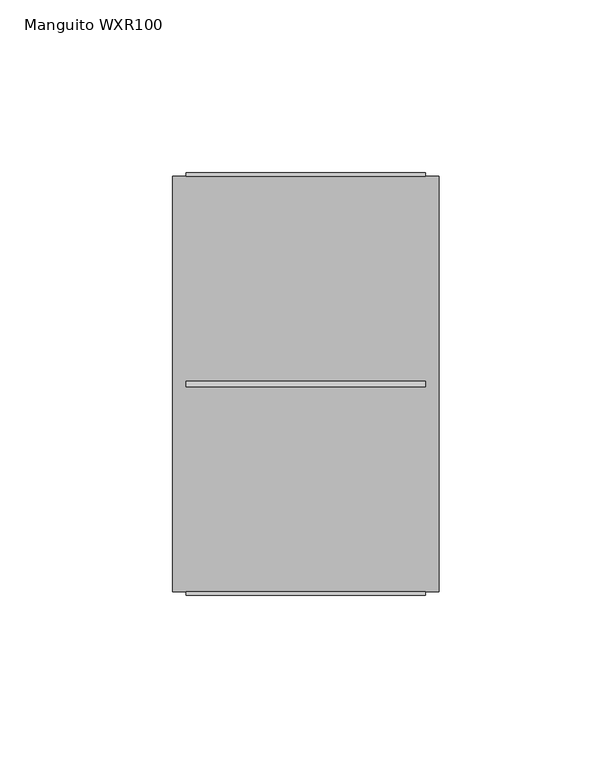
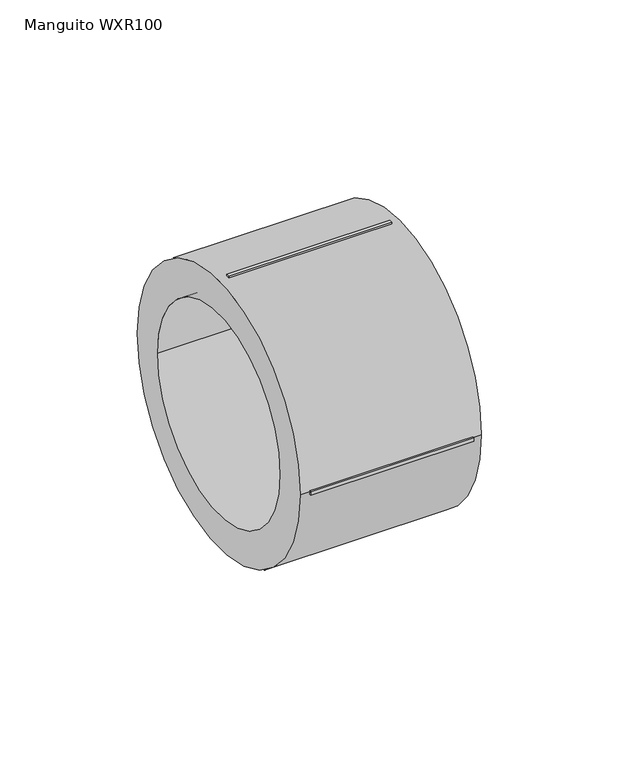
"""IFC4 building model written with IfcOpenShell, lengths in millimetres: pipe fitting geometry, EGB_VASEN_ PPR_Manguito WXR100 : Manguito WXR100."""

from ifc_helpers import new_model, si_unit, point, frame, origin, origin_2d, place, context, project, spatial, polyline, circle_curve, trimmed, segment, composite_curve, outline, extrude, source, transform, mapped, element, save


def manguito_wxr100_6838e299(model_context):
    return source(origin(), model_context, "Body", "SweptSolid", [
        extrude(outline(composite_curve([segment(trimmed(circle_curve(origin_2d(), 60.0), [point((-60.0, 0.0))], [point((60.0, 0.0))], False, "CARTESIAN"), True, "CONTINUOUS"), segment(trimmed(circle_curve(origin_2d(), 60.0), [point((60.0, 0.0))], [point((-60.0, 0.0))], False, "CARTESIAN"), True, "CONTINUOUS")], self_intersect=False), holes=[composite_curve([segment(trimmed(circle_curve(origin_2d(), 45.0), [point((-45.0, 0.0))], [point((45.0, 0.0))], True, "CARTESIAN"), True, "CONTINUOUS"), segment(trimmed(circle_curve(origin_2d(), 45.0), [point((45.0, 0.0))], [point((-45.0, 0.0))], True, "CARTESIAN"), True, "CONTINUOUS")], self_intersect=False)]), frame((-38.5, 0.0, 0.0), z_axis=(1.0, 0.0, 0.0), x_axis=(0.0, 1.0, 0.0)), (0.0, 0.0, 1.0), 77.0),
        extrude(outline(polyline([(34.65, 0.75), (34.65, -0.75), (-34.65, -0.75), (-34.65, 0.75), (34.65, 0.75)])), frame((0.0, 0.0, 59.0), z_axis=(0.0, 0.0, 1.0), x_axis=(1.0, 0.0, 0.0)), (0.0, 0.0, 1.0), 2.0),
        extrude(outline(polyline([(34.65, 0.75), (34.65, -0.75), (-34.65, -0.75), (-34.65, 0.75), (34.65, 0.75)])), frame((0.0, 0.0, -61.0), z_axis=(0.0, 0.0, 1.0), x_axis=(1.0, 0.0, 0.0)), (0.0, 0.0, 1.0), 2.0),
        extrude(outline(polyline([(34.65, 61.0), (34.65, 59.0), (-34.65, 59.0), (-34.65, 61.0), (34.65, 61.0)])), frame((0.0, 0.0, -0.75), z_axis=(0.0, 0.0, 1.0), x_axis=(1.0, 0.0, 0.0)), (0.0, 0.0, 1.0), 1.5),
        extrude(outline(polyline([(34.65, -59.0), (34.65, -61.0), (-34.65, -61.0), (-34.65, -59.0), (34.65, -59.0)])), frame((0.0, 0.0, -0.75), z_axis=(0.0, 0.0, 1.0), x_axis=(1.0, 0.0, 0.0)), (0.0, 0.0, 1.0), 1.5),
    ])


if __name__ == "__main__":
    model = new_model("IFC4")
    model_context = context("Model", 3, world=origin())
    ifc_project = project(units=[si_unit("LENGTHUNIT", "METRE", prefix="MILLI")], contexts=[model_context])
    site = spatial("IfcSite", under=ifc_project)
    building = spatial("IfcBuilding", under=site)
    placement = place(None, origin())
    manguito_wxr100_shape = manguito_wxr100_6838e299(model_context)
    element("IfcPipeFitting", 1, ObjectType="EGB_VASEN_ PPR_Manguito WXR100 : Manguito WXR100", at=placement, inside=building, context=model_context, shape_type="MappedRepresentation", body=[
        mapped(manguito_wxr100_shape, transform((0.0, 0.0, 0.0), x_axis=(1.0, 0.0, 0.0), y_axis=(0.0, 1.0, 0.0), z_axis=(0.0, 0.0, 1.0))),
    ])
    save(model, "model.ifc")
